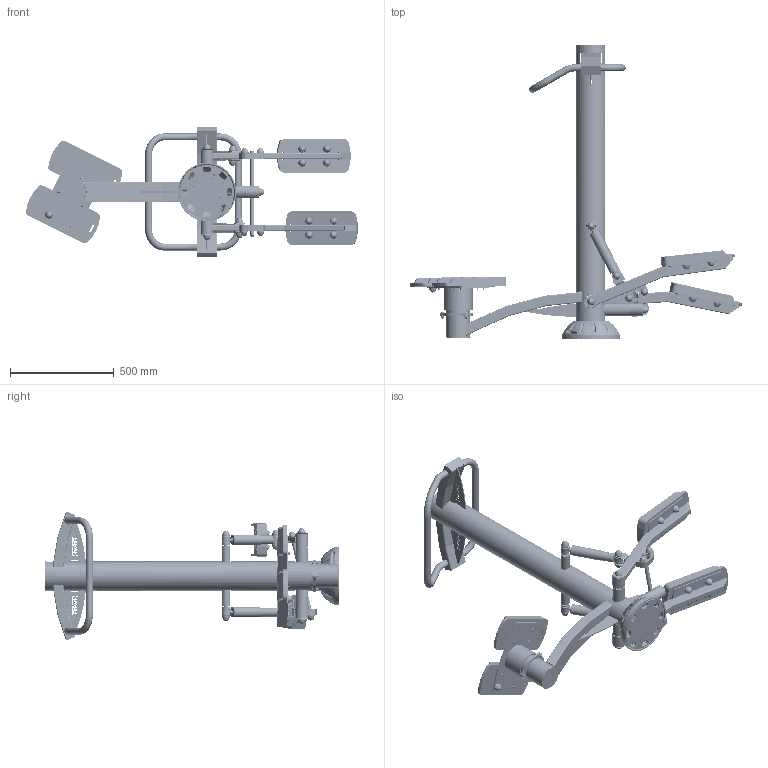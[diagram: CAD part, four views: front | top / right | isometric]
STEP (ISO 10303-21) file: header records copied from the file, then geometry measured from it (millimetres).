
FILE_DESCRIPTION (( 'STEP AP203' ), '1' );
FILE_NAME ('C0601 - TWISTER STEPPER ASS V1.7.STEP', '2021-02-02T15:42:08', ( '' ), ( '' ), 'SwSTEP 2.0', 'SolidWorks 2020', '' );
FILE_SCHEMA (( 'CONFIG_CONTROL_DESIGN' ));
Length unit declared in the file: millimetre
Products named in the file (92): SB0112 - Vis Torx teton central M8x20_M8x20; SA1448 - Axe Inox D.14mm L86,3mm V1.0; TROND33.7X2.9 - Tube guidon Stepper L=757 V1.0; SBA1610 - Bague Twister pour axe D.20 V1.0; SF1110 - Ecrou borgne frein M8 A2; BATI-C0601 - BATI TWISTER STEPPER ASS V1.7; SAM2202 - Amortisseur stepper V2_Sorti; SFC0900 - Fiche de consigne en vinyl 90x220mm_Quadriceps traction bras; SA1464 - Axe inox D.40 L213mm V1.0; SC0304 - CACHE PLATINE ASS V4.0; BRASD-CT0112 - BRAS REPOSE PIED DROIT STEPPER ASS V1.6; TRELIACOL-S0202 - Tube liaison colonne Twister V1.0; SF1101 - Ecrou frein M10 A2; SR0416 - Rondelle plate petite M10 A2 ext 22mm; C0601 - TWISTER STEPPER ASS V1.7; TROSM-60-130 - Tube D.60,3x2,9 L=130 V1.0; SBA1631 - Bague 32006 L85 V1.0; SF1107 - Ecrou M8 zingué_default; SF1100 - Ecrou frein M8 A2; SBU1023 - Pion plat long butée angulaire V1.0; PU-TOLGOCCOTW - Gousset contre colonne Twister V1.0; TROCSDPP107-61T - Support double pions plat pour Twister D.107 d.61 V1.1; TROSM-42-285 - Tube D.42,4x2,9 L=285 V1.0; SRP0206 - REPOSE PIED ASS V4.0_Capuchon Ｑ 6; TROCSPP102-30 - Support pion plat D.102 d.30 V1.0; SC0306B - Base pour capuchon en nylon 36mm; SR0415 - Rondelle Grower M8 A2; SR0448 - Rondelle pour écrou à encoches M20x1; TROSM-60-274 - Tube D.60,3x2,9 L=274 V1.0; SBU1010 - Butee conique inox D.30 L=30; SRP0208 - Patin Stepper V2.0; TRECT-R750 - Tube rectangulaire cintré R750 100x50x3 L618 V1.0_Trous D.33,7 traversant; SBU1027 - Pion plat pour butée conique V1.0; SR0426 - Rondelle plate petite M10 A2 ext 18mm; PU-TROREPIED - Demi support repose pied; SBA1632 - Bague d.30 D.40 L12 V1.0; SA1426 - Axe acier D.25 L448 V1.1_V俵o elliptique; TROND139,7X3 - Tube D.139,7x3 L=105 V1.0; TREBRP-CT0112 - Tube bras respose pied Stepper V1.1; SPLC0900 - Plaque et fiche de consigne 90x220x2mm ASS V1.0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
Assembly tree (244 placements, depth 4):
  C0601 - TWISTER STEPPER ASS V1.7
    BATI-C0601 - BATI TWISTER STEPPER ASS V1.7
      PLATINE BASE ASS V2.0
        PU-TOLPLAT - Platine base V1.0
        PU-TOLGOPL - Gousset platine V2.0  x4
      PU-TROCB1400TS - Colonne base haute D.139,7x3 Ht1400 Twister-Stepper V1.0
      TRECT-R750 - Tube rectangulaire cintré R750 100x50x3 L618 V1.0_Trous D.33,7 traversant
      PU-TDRFIT219 - Tole renfort Fitpark L219 H106 V1.0  x2
      SCH1807 - Chapeau 96x46 V1.0  x2
      TRELIACOL-S0202 - Tube liaison colonne Twister V1.0
      TROND33.7X2.9 - Tube guidon Stepper L=757 V1.0
      TROCGUI-C0601.A - Tube guidon Twister Stepper V1.1
      SCH1806.A - Chapeau D135 V1.2
      PU-TOLGOCCOTW - Gousset contre colonne Twister V1.0
      TROSM-42-285 - Tube D.42,4x2,9 L=285 V1.0
      TROSM-60-274 - Tube D.60,3x2,9 L=274 V1.0
      PU-TOLROND60-20 - Rondelle pour tube D.60 percée d.20 V1.0_V‚lo elliptique  x4
      PU-TOLROND42-20 - Rondelle pour tube D.42 percée d.20 V1.0_V‚lo elliptique  x2
      SA1426 - Axe acier D.25 L448 V1.1_V俵o elliptique
      SA1427.A - Axe acier D.25 L420 V2.0
      TROSM-60-130 - Tube D.60,3x2,9 L=130 V1.0
      SA1418.A - Axe manivelle D.20 L134,4 V1.1
      TOLGOUS110x40 - Gousset 110x40 廧.6 V1.0
      PU-TRETRAV570 - Tube rectangulaire cintré R1200 100x50x3 L570 V1.0
      TROND114.3X3 - Tube D.114,3x3 L=110 V1.0
      SCH1809 - Chapeau D109 V1.0
      TROCBRIA114 - Bride ajourée pour tube D.114 V1.0
    SRP0206 - REPOSE PIED ASS V4.0_Capuchon Ｑ 6
      SRP0206 - Repose pied V3.1
      SR0404 - Rondelle plate Moyenne M8 A2
      SC0306B - Base pour capuchon en nylon 36mm
      SF1100 - Ecrou frein M8 A2
      SC0306C - Petit capuchon en nylon 36 mm
      TOLSRP344 - Insert platine repose pied V1.1
    SRP0206 - REPOSE PIED ASS V4.0_Capuchon Ｑ 6
      SRP0206 - Repose pied V3.1
      TOLSRP344 - Insert platine repose pied V1.1
    SC0304 - CACHE PLATINE ASS V4.0
      SC0304 - Demi cache platine D140 V4.0
      SB0112 - Vis Torx teton central M8x20_M8x20  x2
      SC0304 - Demi cache platine D140 V4.0_Demi
    BRASG-CT0112 - BRAS REPOSE PIED GAUCHE STEPPER ASS V1.6
      TREBRP-CT0112 - Tube bras respose pied Stepper V1.1
      SBA1601 - Bague 6204 L60 V1.0
      SCH1810 - Chapeau 66x26 pour tube 50x30 coupe à 45°
      PU-TROREPIED - Demi support repose pied  x2
      TOLSUPAT-CT0112 - Support patin Stepper V1.0
      SCHP2004 - Chape pliee 40 廧 5 V1.0
    BRASD-CT0112 - BRAS REPOSE PIED DROIT STEPPER ASS V1.6
      TREBRP-CT0112 - Tube bras respose pied Stepper V1.1
      SBA1601 - Bague 6204 L60 V1.0
      SCH1810 - Chapeau 66x26 pour tube 50x30 coupe à 45°
      PU-TROREPIED - Demi support repose pied  x2
      TOLSUPAT-CT0112 - Support patin Stepper V1.0
      SCHP2004 - Chape pliee 40 廧 5 V1.0
    SRP0206 - REPOSE PIED ASS V4.0_Capuchon Ｑ 5
      SRP0206 - Repose pied V3.1
      SR0404 - Rondelle plate Moyenne M8 A2  x4
      SC0306B - Base pour capuchon en nylon 36mm  x4
      SF1100 - Ecrou frein M8 A2  x4
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Bounding box: 1598.43 x 1418 x 621.97 mm (x, y, z)
Volume: 10549151.5 mm3; surface area: 6028450.1 mm2
Topology: 285 solids, 290 shells, 6677 faces, 15667 edges, 10004 vertices
Faces by surface type: plane 2618, cylinder 1324, cone 1135, bspline 899, torus 607, sphere 94
Full cylindrical faces by diameter (mm): 1.8 x5, 2.64 x4, 5 x16, 6.647 x24, 6.75 x2, 6.95 x5, 8 x42, 8.2 x32, 8.3 x4, 8.376 x28, 8.4 x17, 8.7 x2, 8.75 x18, 9.2 x9, 9.3 x3, 10 x38, 10.5 x28, 10.8 x28, 11 x8, 11.5 x9, 13 x9, 14 x8, 14.3 x4, 14.5 x2, 16 x2, 17 x14, 18 x30, 18.5 x1, 20 x13, 20.1 x1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
Entity records: 207987 total; most frequent: CARTESIAN_POINT 137939, ORIENTED_EDGE 11226, DIRECTION 11006, EDGE_CURVE 5615, AXIS2_PLACEMENT_3D 4544, VERTEX_POINT 3862, EDGE_LOOP 3648, FACE_OUTER_BOUND 3044
